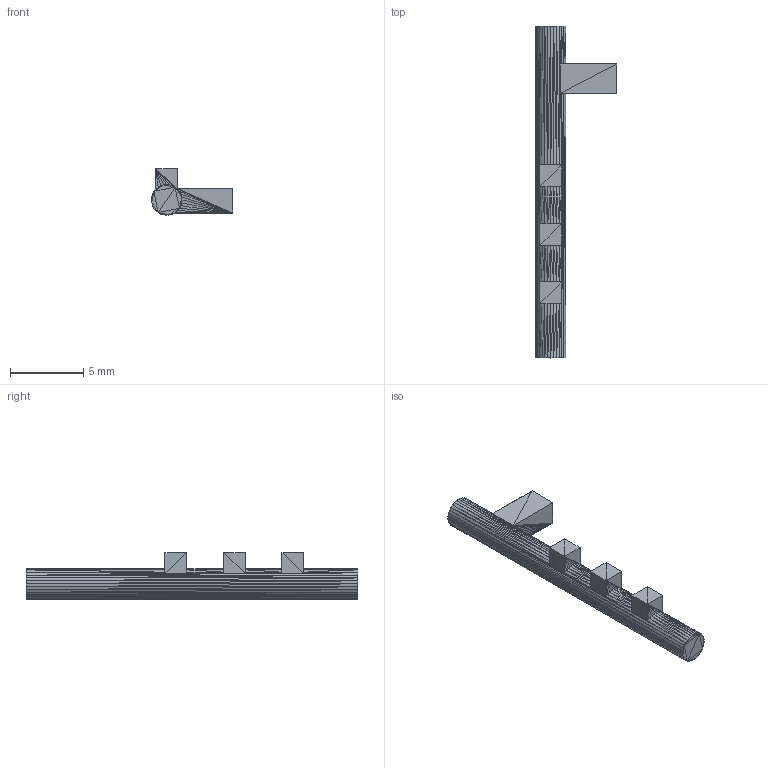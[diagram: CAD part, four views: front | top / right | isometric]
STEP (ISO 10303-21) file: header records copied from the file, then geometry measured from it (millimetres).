
FILE_DESCRIPTION((''),'2;1');
FILE_NAME('stick', '2026-10-03T10:00:23', (''), (''), 'ImageToStl.com STEP Converter','', '');
FILE_SCHEMA(('AUTOMOTIVE_DESIGN_CC2'));
Length unit declared in the file: metre
Products named in the file (1): product0
Bounding box: 5.56 x 22.7 x 3.17 mm (x, y, z)
Surface area: 205.8 mm2 (no closed solid volume)
Topology: 0 solids, 336 shells, 336 faces, 1008 edges, 170 vertices
Faces by surface type: plane 336
Entity records: 7760 total; most frequent: DIRECTION 1682, ORIENTED_EDGE 1008, EDGE_CURVE 1008, LINE 1008, VECTOR 1008, AXIS2_PLACEMENT_3D 337, FACE_SURFACE 336, PLANE 336
